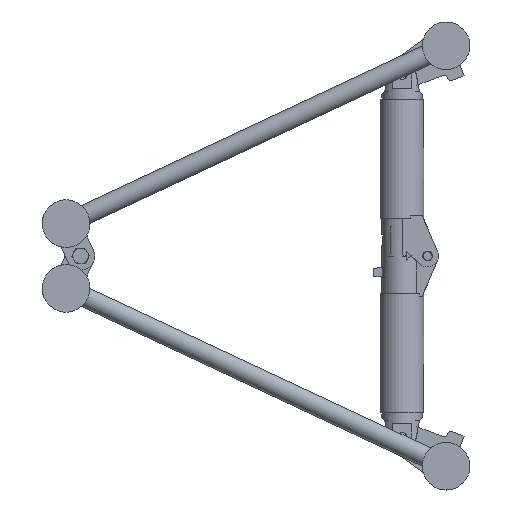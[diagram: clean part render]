
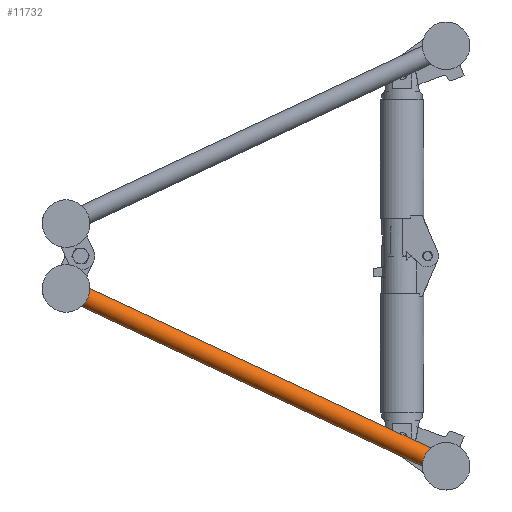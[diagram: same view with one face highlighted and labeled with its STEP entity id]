
A CAD part, left-side view. The second image highlights one B-rep face of the part: STEP entity #11732.
In plain terms, the highlighted cylindrical face has radius 12.5 mm (diameter 25 mm), a full revolution.
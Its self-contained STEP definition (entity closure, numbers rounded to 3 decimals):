
#210=B_SPLINE_CURVE_WITH_KNOTS('',3,(#18522,#18523,#18524,#18525,#18526,
#18527),.UNSPECIFIED.,.F.,.F.,(4,2,4),(1.801,1.922,
2.043),.UNSPECIFIED.);
#211=B_SPLINE_CURVE_WITH_KNOTS('',3,(#18531,#18532,#18533,#18534,#18535,
#18536),.UNSPECIFIED.,.F.,.F.,(4,2,4),(5.645,5.766,
5.887),.UNSPECIFIED.);
#228=B_SPLINE_CURVE_WITH_KNOTS('',3,(#18884,#18885,#18886,#18887,#18888,
#18889),.UNSPECIFIED.,.F.,.F.,(4,2,4),(5.645,5.766,
5.887),.UNSPECIFIED.);
#229=B_SPLINE_CURVE_WITH_KNOTS('',3,(#18893,#18894,#18895,#18896,#18897,
#18898),.UNSPECIFIED.,.F.,.F.,(4,2,4),(1.801,1.922,
2.043),.UNSPECIFIED.);
#536=FACE_BOUND('',#2485,.T.);
#927=CIRCLE('',#12705,12.5);
#928=CIRCLE('',#12707,12.5);
#929=CIRCLE('',#12708,12.5);
#930=CIRCLE('',#12709,12.5);
#1220=CYLINDRICAL_SURFACE('',#12706,12.5);
#1662=FACE_OUTER_BOUND('',#2484,.T.);
#2484=EDGE_LOOP('',(#8831,#8832,#8833,#8834));
#2485=EDGE_LOOP('',(#8835,#8836,#8837,#8838));
#5142=VERTEX_POINT('',#18520);
#5143=VERTEX_POINT('',#18521);
#5144=VERTEX_POINT('',#18528);
#5145=VERTEX_POINT('',#18530);
#5185=VERTEX_POINT('',#18882);
#5186=VERTEX_POINT('',#18883);
#5187=VERTEX_POINT('',#18890);
#5188=VERTEX_POINT('',#18892);
#6469=EDGE_CURVE('',#5142,#5143,#210,.T.);
#6471=EDGE_CURVE('',#5145,#5144,#211,.T.);
#6524=EDGE_CURVE('',#5144,#5142,#927,.T.);
#6525=EDGE_CURVE('',#5185,#5186,#228,.T.);
#6526=EDGE_CURVE('',#5186,#5187,#928,.T.);
#6527=EDGE_CURVE('',#5187,#5188,#229,.T.);
#6528=EDGE_CURVE('',#5188,#5185,#929,.T.);
#6529=EDGE_CURVE('',#5143,#5145,#930,.T.);
#8831=ORIENTED_EDGE('',*,*,#6525,.T.);
#8832=ORIENTED_EDGE('',*,*,#6526,.T.);
#8833=ORIENTED_EDGE('',*,*,#6527,.T.);
#8834=ORIENTED_EDGE('',*,*,#6528,.T.);
#8835=ORIENTED_EDGE('',*,*,#6471,.T.);
#8836=ORIENTED_EDGE('',*,*,#6524,.T.);
#8837=ORIENTED_EDGE('',*,*,#6469,.T.);
#8838=ORIENTED_EDGE('',*,*,#6529,.T.);
#11732=ADVANCED_FACE('',(#1662,#536),#1220,.T.);
#12705=AXIS2_PLACEMENT_3D('',#18880,#14969,#14970);
#12706=AXIS2_PLACEMENT_3D('',#18881,#14971,#14972);
#12707=AXIS2_PLACEMENT_3D('',#18891,#14973,#14974);
#12708=AXIS2_PLACEMENT_3D('',#18899,#14975,#14976);
#12709=AXIS2_PLACEMENT_3D('',#18900,#14977,#14978);
#14969=DIRECTION('center_axis',(0.,0.906,
0.424));
#14970=DIRECTION('ref_axis',(-1.,0.,0.));
#14971=DIRECTION('center_axis',(0.,0.906,
0.424));
#14972=DIRECTION('ref_axis',(-1.,0.,0.));
#14973=DIRECTION('center_axis',(0.,-0.906,
-0.424));
#14974=DIRECTION('ref_axis',(-1.,0.,0.));
#14975=DIRECTION('center_axis',(0.,-0.906,
-0.424));
#14976=DIRECTION('ref_axis',(-1.,0.,0.));
#14977=DIRECTION('center_axis',(0.,0.906,
0.424));
#14978=DIRECTION('ref_axis',(-1.,0.,0.));
#18520=CARTESIAN_POINT('',(80.06,23.134,-250.523));
#18521=CARTESIAN_POINT('',(80.06,22.096,-248.305));
#18522=CARTESIAN_POINT('Ctrl Pts',(80.06,23.134,-250.523));
#18523=CARTESIAN_POINT('Ctrl Pts',(80.02,22.978,-250.142));
#18524=CARTESIAN_POINT('Ctrl Pts',(80.,22.813,-249.767));
#18525=CARTESIAN_POINT('Ctrl Pts',(80.,22.471,-249.036));
#18526=CARTESIAN_POINT('Ctrl Pts',(80.02,22.289,-248.669));
#18527=CARTESIAN_POINT('Ctrl Pts',(80.06,22.096,-248.305));
#18528=CARTESIAN_POINT('',(104.94,23.134,-250.523));
#18530=CARTESIAN_POINT('',(104.94,22.096,-248.305));
#18531=CARTESIAN_POINT('Ctrl Pts',(104.94,22.096,-248.305));
#18532=CARTESIAN_POINT('Ctrl Pts',(104.98,22.289,-248.669));
#18533=CARTESIAN_POINT('Ctrl Pts',(105.,22.471,-249.036));
#18534=CARTESIAN_POINT('Ctrl Pts',(105.,22.813,-249.767));
#18535=CARTESIAN_POINT('Ctrl Pts',(104.98,22.978,-250.142));
#18536=CARTESIAN_POINT('Ctrl Pts',(104.94,23.134,-250.523));
#18880=CARTESIAN_POINT('Origin',(92.5,22.615,-249.414));
#18881=CARTESIAN_POINT('Origin',(92.5,234.999,-150.));
#18882=CARTESIAN_POINT('',(104.94,447.903,-51.695));
#18883=CARTESIAN_POINT('',(104.94,446.865,-49.477));
#18884=CARTESIAN_POINT('Ctrl Pts',(104.94,447.903,-51.695));
#18885=CARTESIAN_POINT('Ctrl Pts',(104.98,447.71,-51.331));
#18886=CARTESIAN_POINT('Ctrl Pts',(105.,447.528,-50.964));
#18887=CARTESIAN_POINT('Ctrl Pts',(105.,447.185,-50.233));
#18888=CARTESIAN_POINT('Ctrl Pts',(104.98,447.021,-49.858));
#18889=CARTESIAN_POINT('Ctrl Pts',(104.94,446.865,-49.477));
#18890=CARTESIAN_POINT('',(80.06,446.865,-49.477));
#18891=CARTESIAN_POINT('Origin',(92.5,447.384,-50.586));
#18892=CARTESIAN_POINT('',(80.06,447.903,-51.695));
#18893=CARTESIAN_POINT('Ctrl Pts',(80.06,446.865,-49.477));
#18894=CARTESIAN_POINT('Ctrl Pts',(80.02,447.021,-49.858));
#18895=CARTESIAN_POINT('Ctrl Pts',(80.,447.185,-50.233));
#18896=CARTESIAN_POINT('Ctrl Pts',(80.,447.528,-50.964));
#18897=CARTESIAN_POINT('Ctrl Pts',(80.02,447.71,-51.331));
#18898=CARTESIAN_POINT('Ctrl Pts',(80.06,447.903,-51.695));
#18899=CARTESIAN_POINT('Origin',(92.5,447.384,-50.586));
#18900=CARTESIAN_POINT('Origin',(92.5,22.615,-249.414));
